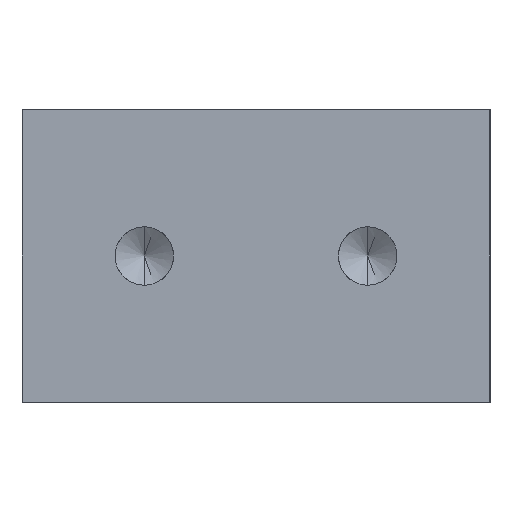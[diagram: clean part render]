
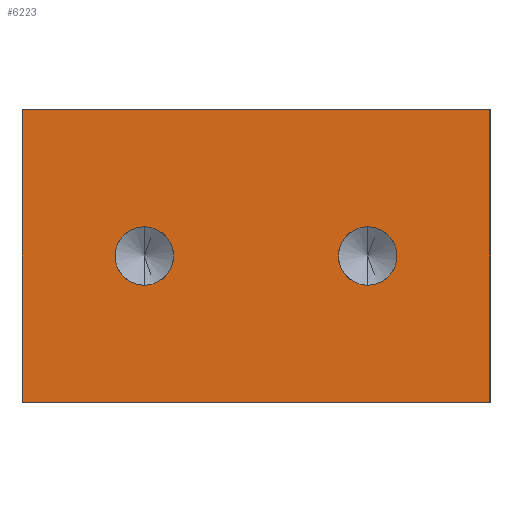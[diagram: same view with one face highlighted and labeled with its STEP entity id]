
A CAD part, left-side view. The second image highlights one B-rep face of the part: STEP entity #6223.
In plain terms, the highlighted planar face has unit normal (-1, 0, 0).
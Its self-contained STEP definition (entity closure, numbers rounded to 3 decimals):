
#506 = CARTESIAN_POINT ( 'NONE',  ( -75., 9.55, -12.5 ) ) ;
#507 = DIRECTION ( 'NONE',  ( -1., 0., 0. ) ) ;
#596 = CIRCLE ( 'NONE', #599, 2.5 ) ;
#599 = AXIS2_PLACEMENT_3D ( 'NONE', #506, #507, #4862 ) ;
#606 = CIRCLE ( 'NONE', #609, 2.5 ) ;
#609 = AXIS2_PLACEMENT_3D ( 'NONE', #814, #815, #816 ) ;
#814 = CARTESIAN_POINT ( 'NONE',  ( -75., -9.55, -12.5 ) ) ;
#815 = DIRECTION ( 'NONE',  ( -1., 0., 0. ) ) ;
#816 = DIRECTION ( 'NONE',  ( 0., 0., 1. ) ) ;
#2394 = DIRECTION ( 'NONE',  ( -1., 0., 0. ) ) ;
#2397 = FACE_BOUND ( 'NONE', #6023, .T. ) ;
#2402 = FACE_BOUND ( 'NONE', #6019, .T. ) ;
#2403 = CARTESIAN_POINT ( 'NONE',  ( -75., 20., -25. ) ) ;
#2405 = FACE_OUTER_BOUND ( 'NONE', #6528, .T. ) ;
#2406 = PLANE ( 'NONE',  #2554 ) ;
#2407 = DIRECTION ( 'NONE',  ( 0., 0., 1. ) ) ;
#2554 = AXIS2_PLACEMENT_3D ( 'NONE', #2403, #2394, #2407 ) ;
#2600 = VECTOR ( 'NONE', #2933, 1000. ) ;
#2614 = VECTOR ( 'NONE', #2956, 1000. ) ;
#2615 = CIRCLE ( 'NONE', #2618, 2.5 ) ;
#2617 = CIRCLE ( 'NONE', #2620, 2.5 ) ;
#2618 = AXIS2_PLACEMENT_3D ( 'NONE', #2961, #2962, #2963 ) ;
#2619 = VECTOR ( 'NONE', #2968, 1000. ) ;
#2620 = AXIS2_PLACEMENT_3D ( 'NONE', #2965, #2966, #2967 ) ;
#2621 = VECTOR ( 'NONE', #2971, 1000. ) ;
#2923 = LINE ( 'NONE', #2932, #2600 ) ;
#2932 = CARTESIAN_POINT ( 'NONE',  ( -75., 20., -25. ) ) ;
#2933 = DIRECTION ( 'NONE',  ( 0., 0., 1. ) ) ;
#2954 = LINE ( 'NONE', #2955, #2614 ) ;
#2955 = CARTESIAN_POINT ( 'NONE',  ( -75., -20., -25. ) ) ;
#2956 = DIRECTION ( 'NONE',  ( 0., 0., 1. ) ) ;
#2959 = LINE ( 'NONE', #2960, #2619 ) ;
#2960 = CARTESIAN_POINT ( 'NONE',  ( -75., 20., 0. ) ) ;
#2961 = CARTESIAN_POINT ( 'NONE',  ( -75., 9.55, -12.5 ) ) ;
#2962 = DIRECTION ( 'NONE',  ( -1., 0., 0. ) ) ;
#2963 = DIRECTION ( 'NONE',  ( 0., 0., 1. ) ) ;
#2965 = CARTESIAN_POINT ( 'NONE',  ( -75., -9.55, -12.5 ) ) ;
#2966 = DIRECTION ( 'NONE',  ( -1., 0., 0. ) ) ;
#2967 = DIRECTION ( 'NONE',  ( 0., 0., 1. ) ) ;
#2968 = DIRECTION ( 'NONE',  ( 0., -1., 0. ) ) ;
#2969 = LINE ( 'NONE', #2970, #2621 ) ;
#2970 = CARTESIAN_POINT ( 'NONE',  ( -75., 20., -25. ) ) ;
#2971 = DIRECTION ( 'NONE',  ( 0., -1., 0. ) ) ;
#4597 = VERTEX_POINT ( 'NONE', #7690 ) ;
#4692 = VERTEX_POINT ( 'NONE', #7785 ) ;
#4772 = VERTEX_POINT ( 'NONE', #7865 ) ;
#4811 = VERTEX_POINT ( 'NONE', #7896 ) ;
#4822 = VERTEX_POINT ( 'NONE', #7912 ) ;
#4823 = VERTEX_POINT ( 'NONE', #7913 ) ;
#4840 = VERTEX_POINT ( 'NONE', #7930 ) ;
#4841 = VERTEX_POINT ( 'NONE', #7931 ) ;
#4862 = DIRECTION ( 'NONE',  ( 0., 0., 1. ) ) ;
#5278 = EDGE_CURVE ( 'NONE', #4811, #4823, #596, .T. ) ;
#5288 = EDGE_CURVE ( 'NONE', #4822, #4692, #606, .T. ) ;
#5676 = ORIENTED_EDGE ( 'NONE', *, *, #6280, .F. ) ;
#5677 = ORIENTED_EDGE ( 'NONE', *, *, #5278, .F. ) ;
#5678 = ORIENTED_EDGE ( 'NONE', *, *, #6281, .F. ) ;
#5679 = ORIENTED_EDGE ( 'NONE', *, *, #5288, .F. ) ;
#5680 = ORIENTED_EDGE ( 'NONE', *, *, #6282, .F. ) ;
#5681 = ORIENTED_EDGE ( 'NONE', *, *, #6270, .F. ) ;
#5682 = ORIENTED_EDGE ( 'NONE', *, *, #6283, .T. ) ;
#5683 = ORIENTED_EDGE ( 'NONE', *, *, #6278, .T. ) ;
#6019 = EDGE_LOOP ( 'NONE', ( #5676, #5677 ) ) ;
#6023 = EDGE_LOOP ( 'NONE', ( #5678, #5679 ) ) ;
#6223 = ADVANCED_FACE ( 'NONE', ( #2402, #2397, #2405 ), #2406, .T. ) ;
#6270 = EDGE_CURVE ( 'NONE', #4840, #4841, #2923, .T. ) ;
#6278 = EDGE_CURVE ( 'NONE', #4597, #4772, #2954, .T. ) ;
#6280 = EDGE_CURVE ( 'NONE', #4823, #4811, #2615, .T. ) ;
#6281 = EDGE_CURVE ( 'NONE', #4692, #4822, #2617, .T. ) ;
#6282 = EDGE_CURVE ( 'NONE', #4841, #4772, #2959, .T. ) ;
#6283 = EDGE_CURVE ( 'NONE', #4840, #4597, #2969, .T. ) ;
#6528 = EDGE_LOOP ( 'NONE', ( #5680, #5681, #5682, #5683 ) ) ;
#7690 = CARTESIAN_POINT ( 'NONE',  ( -75., -20., -25. ) ) ;
#7785 = CARTESIAN_POINT ( 'NONE',  ( -75., -9.55, -10. ) ) ;
#7865 = CARTESIAN_POINT ( 'NONE',  ( -75., -20., 0. ) ) ;
#7896 = CARTESIAN_POINT ( 'NONE',  ( -75., 9.55, -15. ) ) ;
#7912 = CARTESIAN_POINT ( 'NONE',  ( -75., -9.55, -15. ) ) ;
#7913 = CARTESIAN_POINT ( 'NONE',  ( -75., 9.55, -10. ) ) ;
#7930 = CARTESIAN_POINT ( 'NONE',  ( -75., 20., -25. ) ) ;
#7931 = CARTESIAN_POINT ( 'NONE',  ( -75., 20., 0. ) ) ;
